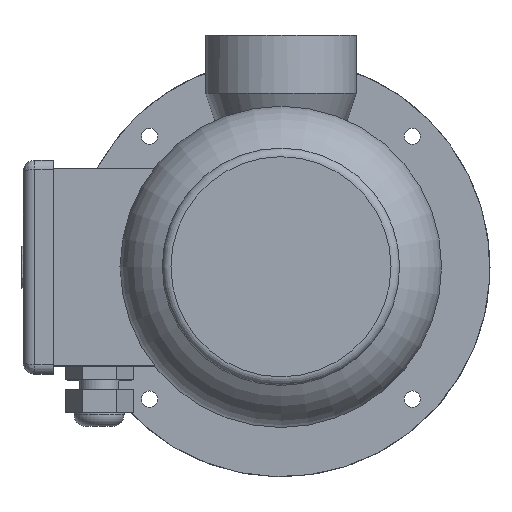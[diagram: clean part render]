
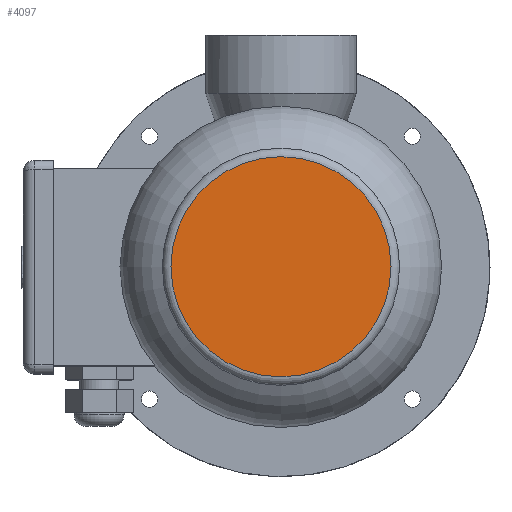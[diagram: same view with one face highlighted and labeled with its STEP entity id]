
A CAD part, top view. The second image highlights one B-rep face of the part: STEP entity #4097.
In plain terms, the highlighted planar face has unit normal (0, 0, 1).
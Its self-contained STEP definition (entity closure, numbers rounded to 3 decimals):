
#1167=ORIENTED_EDGE('',*,*,#2325,.F.);
#2325=EDGE_CURVE('',#2898,#2898,#3176,.T.);
#2898=VERTEX_POINT('',#7806);
#3176=CIRCLE('',#4458,47.382);
#3337=EDGE_LOOP('',(#1167));
#3692=FACE_BOUND('',#3337,.T.);
#3966=PLANE('',#4457);
#4097=ADVANCED_FACE('',(#3692),#3966,.F.);
#4457=AXIS2_PLACEMENT_3D('',#7804,#5010,#5011);
#4458=AXIS2_PLACEMENT_3D('',#7805,#5012,#5013);
#5010=DIRECTION('',(0.,0.,-1.));
#5011=DIRECTION('',(-1.,0.,0.));
#5012=DIRECTION('',(0.,0.,-1.));
#5013=DIRECTION('',(-1.,0.,0.));
#7804=CARTESIAN_POINT('',(0.,0.,426.962));
#7805=CARTESIAN_POINT('',(0.,0.,426.962));
#7806=CARTESIAN_POINT('',(-47.382,0.,426.962));
